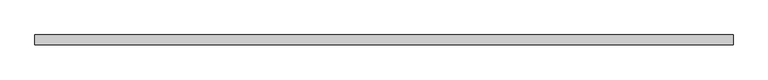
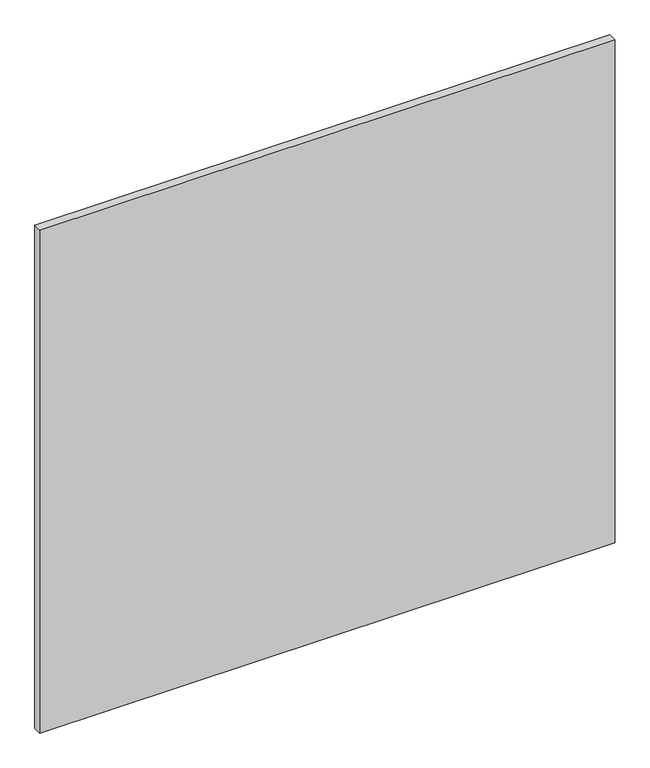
"""IFC4 building model written with IfcOpenShell, lengths in millimetres: plate geometry, 系统嵌板 : 玻璃."""

from ifc_helpers import new_model, si_unit, origin, origin_with_axes, place, context, project, spatial, polyline, outline, extrude, source, transform, mapped, element, save


def plate_dec8ca84(model_context):
    return source(origin(), model_context, "Body", "SweptSolid", [
        extrude(outline(polyline([(875.0, -12.5), (-875.0, -12.5), (-875.0, 12.5), (875.0, 12.5), (875.0, -12.5)])), origin_with_axes(), (0.0, 0.0, 1.0), 1616.6666667),
    ])


if __name__ == "__main__":
    model = new_model("IFC4")
    model_context = context("Model", 3, world=origin())
    ifc_project = project(units=[si_unit("LENGTHUNIT", "METRE", prefix="MILLI")], contexts=[model_context])
    site = spatial("IfcSite", under=ifc_project)
    building = spatial("IfcBuilding", under=site)
    placement = place(None, origin())
    plate_shape = plate_dec8ca84(model_context)
    element("IfcPlate", 1, ObjectType="系统嵌板 : 玻璃", at=placement, inside=building, context=model_context, shape_type="MappedRepresentation", body=[
        mapped(plate_shape, transform((0.0, 0.0, 0.0), x_axis=(1.0, 0.0, 0.0), y_axis=(0.0, 1.0, 0.0), z_axis=(0.0, 0.0, 1.0))),
    ])
    save(model, "model.ifc")
